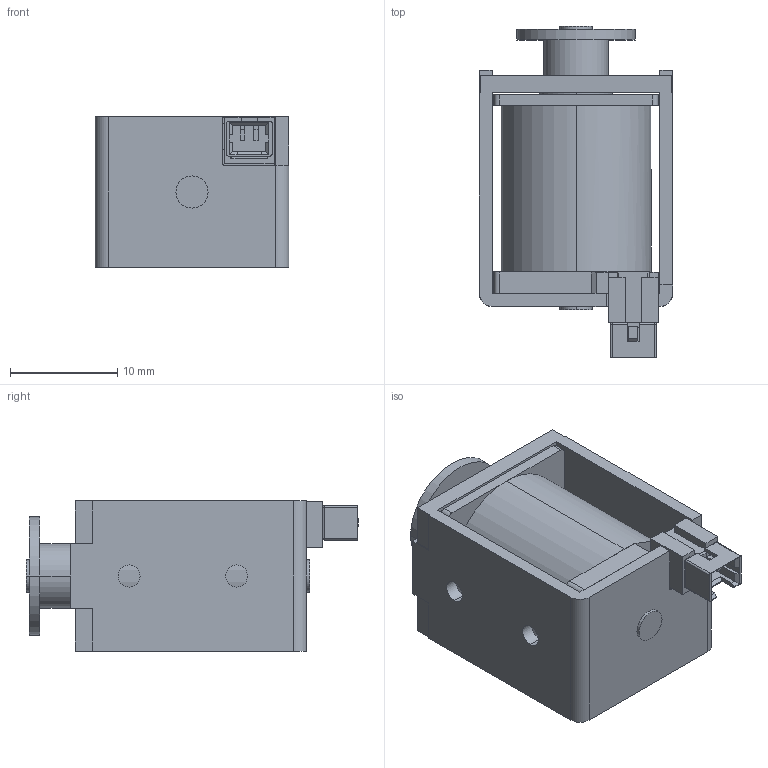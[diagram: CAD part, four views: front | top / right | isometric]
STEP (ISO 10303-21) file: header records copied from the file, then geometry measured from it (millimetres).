
FILE_DESCRIPTION (( 'STEP AP203' ), '1' );
FILE_NAME ('w_cfb0622.STEP', '2014-07-28T02:21:17', ( 'jiba' ), ( 'Hewlett-Packard Company' ), 'SwSTEP 2.0', 'SolidWorks 2014', '' );
FILE_SCHEMA (( 'CONFIG_CONTROL_DESIGN' ));
Length unit declared in the file: millimetre
Products named in the file (3): Part5^w_cfb0622; Part1^w_cfb0622_pl; w_cfb0622
Assembly tree (2 placements, depth 2):
  w_cfb0622
    Part5^w_cfb0622
    Part1^w_cfb0622_pl
Bounding box: 18 x 30.9 x 14 mm (x, y, z)
Volume: 4526.3 mm3; surface area: 4347.5 mm2
Topology: 2 solids, 2 shells, 247 faces, 685 edges, 431 vertices
Faces by surface type: plane 187, cylinder 54, bspline 6
Entity records: 8170 total; most frequent: CARTESIAN_POINT 1464, ORIENTED_EDGE 1370, DIRECTION 1291, EDGE_CURVE 685, VECTOR 567, LINE 567, VERTEX_POINT 431, AXIS2_PLACEMENT_3D 362
